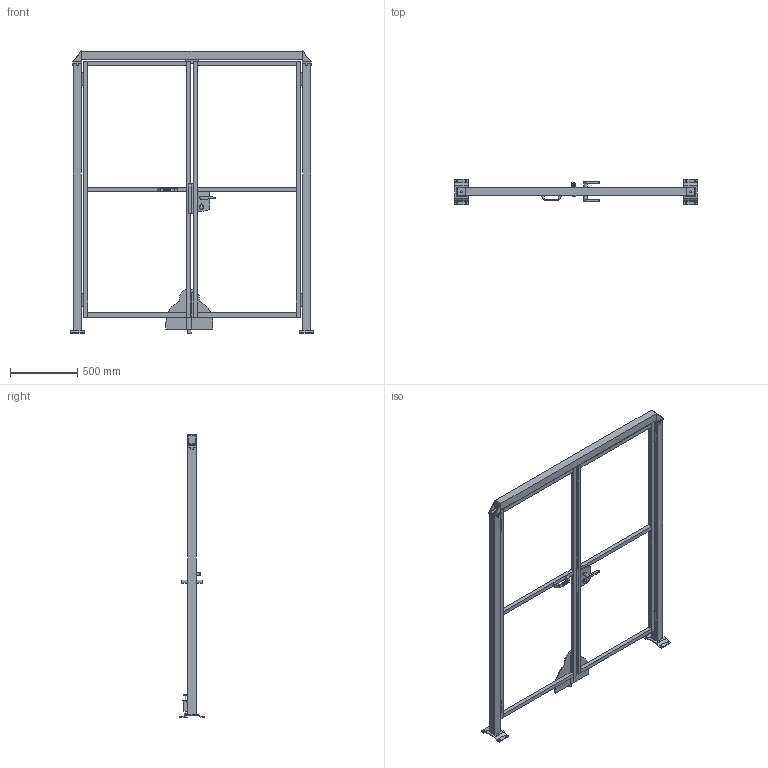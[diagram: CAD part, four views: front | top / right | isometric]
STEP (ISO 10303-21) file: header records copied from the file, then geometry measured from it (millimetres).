
FILE_DESCRIPTION(/* description */ (''),/* implementation_level */ '2;1');
FILE_NAME(/* name */ 'C:\SafeGuarding\ELABORATI\VZOR§GAMMA_2025-02-03-10-53-48.stp',/* time_stamp */ '2025-02-03T10:53:51+01:00',/* author */ ('admin'),/* organization */ (''),/* preprocessor_version */ 'ST-DEVELOPER v18.1',/* originating_system */ 'AutoCAD Mechanical',/* authorisation */ '');
FILE_SCHEMA (('AUTOMOTIVE_DESIGN { 1 0 10303 214 3 1 1 }'));
Length unit declared in the file: millimetre
Products named in the file (5): Product; *U5; DATI_PORTA; P_VFMA.ME60SDU.2020; R_VFPA.REPE30.08001900
Assembly tree (6 placements, depth 2):
  Product
    R_VFPA.REPE30.08001900  x2
    P_VFMA.ME60SDU.2020  x2
    *U5
    DATI_PORTA
Bounding box: 1805 x 192 x 2100.5 mm (x, y, z)
Volume: 33001669.5 mm3; surface area: 3516983.9 mm2
Topology: 40 solids, 51 shells, 473 faces, 1431 edges, 1328 vertices
Faces by surface type: plane 397, cylinder 71, bspline 4, cone 1
Full cylindrical faces by diameter (mm): 11 x25, 14 x2, 24 x1, 25 x2, 25.398 x2
Entity records: 14504 total; most frequent: CARTESIAN_POINT 4018, DIRECTION 2045, ORIENTED_EDGE 1924, EDGE_CURVE 1011, LINE 863, VECTOR 863, VERTEX_POINT 710, AXIS2_PLACEMENT_3D 591
